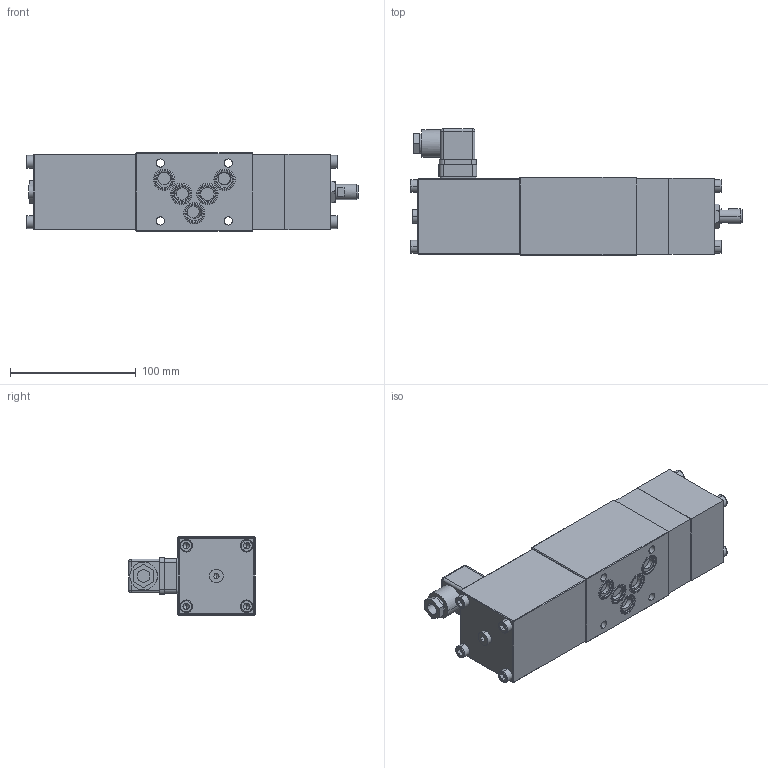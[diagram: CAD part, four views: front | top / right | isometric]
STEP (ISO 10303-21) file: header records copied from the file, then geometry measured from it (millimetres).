
FILE_DESCRIPTION (( 'STEP AP214' ), '1' );
FILE_NAME ('A.32101a-Z482, Z603, Z680.STEP', '2017-03-08T06:48:57', ( '' ), ( '' ), 'SwSTEP 2.0', 'SolidWorks 2016', '' );
FILE_SCHEMA (( 'AUTOMOTIVE_DESIGN' ));
Length unit declared in the file: millimetre
Products named in the file (1): A.32101a-Z482, Z603, Z680
Bounding box: 263.7 x 100.8 x 62 mm (x, y, z)
Volume: 891049.4 mm3; surface area: 114322.1 mm2
Topology: 12 solids, 23 shells, 940 faces, 2297 edges, 1445 vertices
Faces by surface type: plane 504, cylinder 258, cone 84, bspline 62, torus 32
Entity records: 39778 total; most frequent: CARTESIAN_POINT 7360, DIRECTION 4615, ORIENTED_EDGE 4546, EDGE_CURVE 2273, AXIS2_PLACEMENT_3D 1648, VERTEX_POINT 1445, VECTOR 1319, LINE 1319
